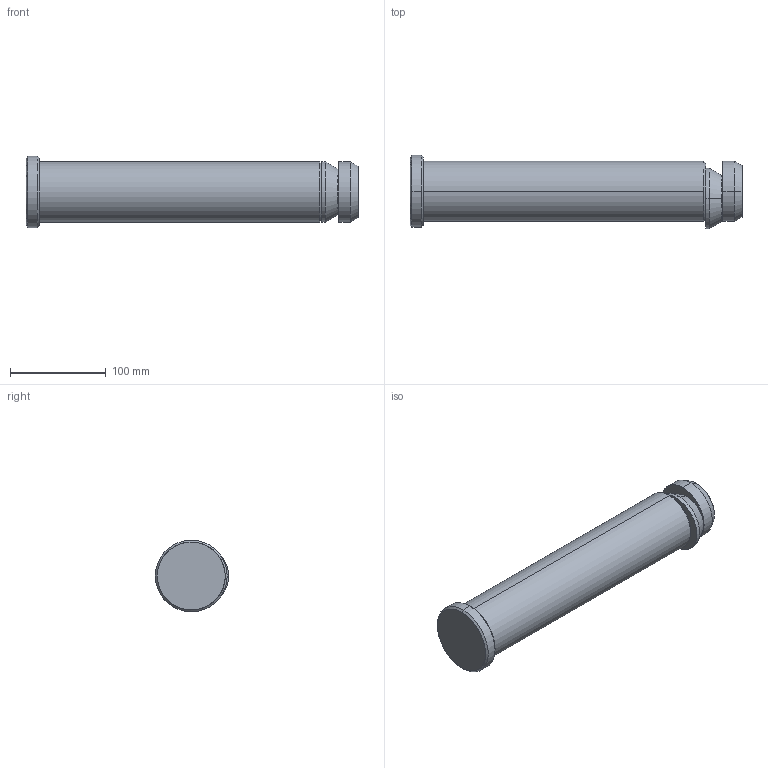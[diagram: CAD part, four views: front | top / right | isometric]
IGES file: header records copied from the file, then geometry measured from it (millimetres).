
Start section: START RECORD GO HERE.
Global section: file name: 395A-063-347.igs; native system: DASSAULT SYSTEMES CATIA V5 R20 - www.3ds.com; preprocessor: CATIA Version 5 Release 20 ; author: Utente; organization: NB04-ASUS; date: 20200409.142737; units: millimetre
Bounding box: 347 x 76.5 x 75 mm (x, y, z)
Surface area: 82016.8 mm2 (no closed solid volume)
Topology: 0 solids, 0 shells, 43 faces, 189 edges, 189 vertices
Faces by surface type: revolution 30, extrusion 13
